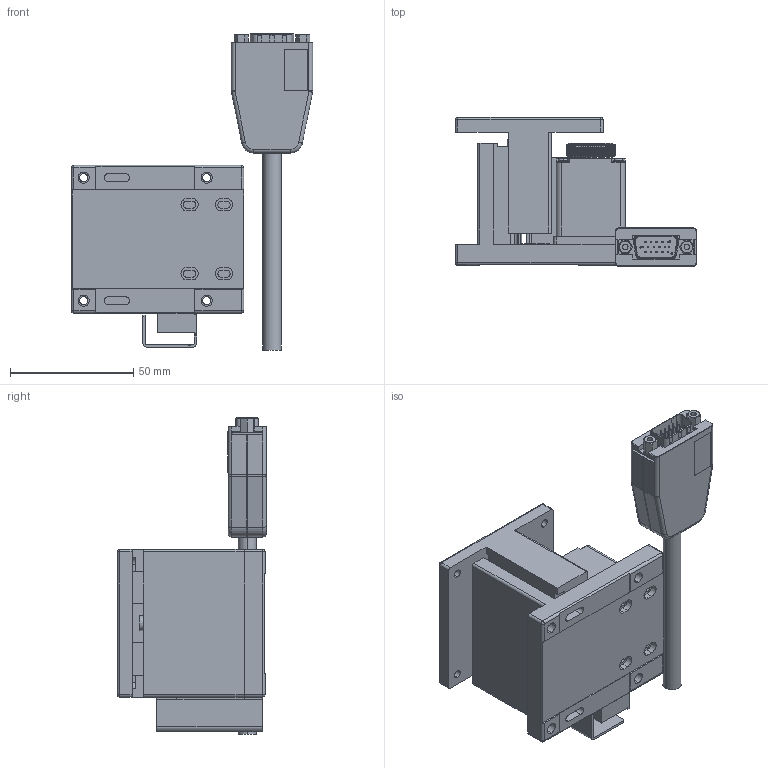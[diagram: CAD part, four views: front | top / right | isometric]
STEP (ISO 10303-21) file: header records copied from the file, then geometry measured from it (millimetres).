
FILE_DESCRIPTION (( 'STEP AP214' ), '1' );
FILE_NAME ('PT-GZ60.STEP', '2023-01-18T04:55:25', ( '' ), ( '' ), 'SwSTEP 2.0', 'SolidWorks 2017', '' );
FILE_SCHEMA (( 'AUTOMOTIVE_DESIGN' ));
Length unit declared in the file: millimetre
Products named in the file (6): GROUP3_AZV6008-F___K__; PT-GZ60; AX60-F-05-1_AZV6008-F___K__; _____S_X1; _____S_X2; GROUP1_AZV6008-F___K__
Assembly tree (5 placements, depth 3):
  PT-GZ60
    AX60-F-05-1_AZV6008-F___K__
    GROUP1_AZV6008-F___K__
      _____S_X1
      _____S_X2
    GROUP3_AZV6008-F___K__
Bounding box: 98 x 60.7 x 128.36 mm (x, y, z)
Volume: 51637.8 mm3; surface area: 59721.8 mm2
Topology: 3 solids, 9 shells, 1500 faces, 4077 edges, 2651 vertices
Faces by surface type: plane 700, cylinder 425, torus 239, bspline 83, cone 45, sphere 8
Entity records: 58800 total; most frequent: CARTESIAN_POINT 22849, ORIENTED_EDGE 8052, DIRECTION 6588, EDGE_CURVE 4067, VERTEX_POINT 2651, AXIS2_PLACEMENT_3D 2392, VECTOR 1804, LINE 1804
